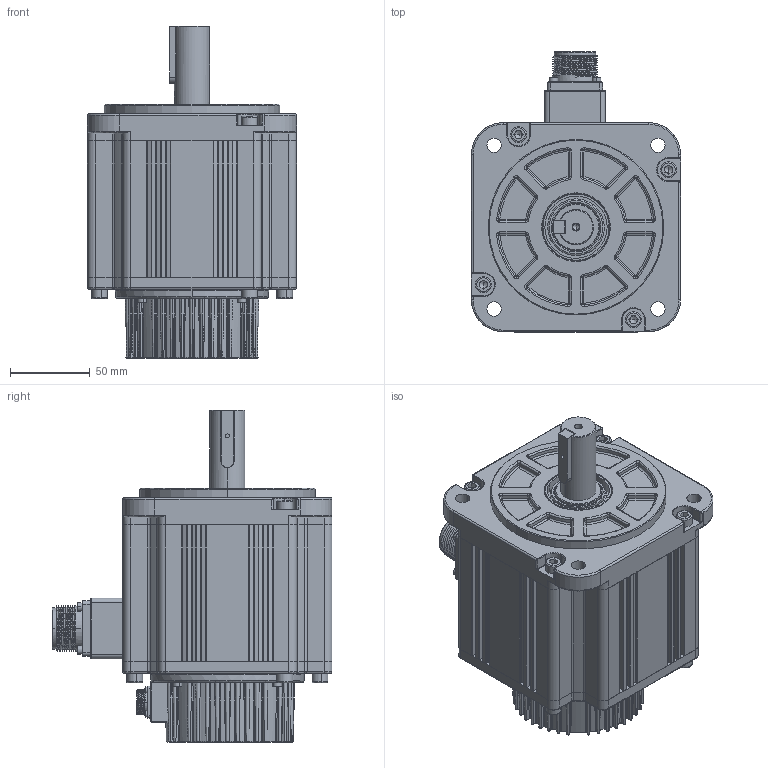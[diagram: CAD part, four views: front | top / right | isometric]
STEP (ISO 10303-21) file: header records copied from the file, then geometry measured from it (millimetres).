
FILE_DESCRIPTION (( 'STEP AP214' ), '1' );
FILE_NAME ('V7E-M13A-1R315-D1.STEP', '2021-08-09T07:04:21', ( '' ), ( '' ), 'SwSTEP 2.0', 'SolidWorks 2014', '' );
FILE_SCHEMA (( 'AUTOMOTIVE_DESIGN' ));
Length unit declared in the file: millimetre
Products named in the file (18): SC瑤諾脣芛 16M-9H; 粣200907; 130陔ヶ傷裔200902; V7-130#定子组件（不带刹车）; 囀鞠褒 M6X20; V7-130#转子组件（不带刹车）; SC瑤諾脣芛 CMS3102A18-10P-Z; 雄薯瑤脣釱200909; 蚐猾 D00B999YF7-TC 30-42-7; 零件1^V7-130#电机组件（不带刹车）200927; 儂褲200901; 綴傷裔200903-4晚源倛; 130陔ヶ傷裔200917; 坋趼攫芛 M2X8; 囀鞠褒 M3X30; 囀鞠褒 M3X10; SC晤鎢ん欶200908_9郋; V7E-M13A-1R315-D1
Assembly tree (33 placements, depth 4):
  V7E-M13A-1R315-D1
    V7-130#定子组件（不带刹车）
      囀鞠褒 M6X20  x4
      130陔ヶ傷裔200917
        130陔ヶ傷裔200902
    V7-130#转子组件（不带刹车）
      粣200907
    SC瑤諾脣芛 16M-9H
    囀鞠褒 M6X20  x4
    SC晤鎢ん欶200908_9郋
    囀鞠褒 M3X10  x4
    坋趼攫芛 M2X8  x4
    蚐猾 D00B999YF7-TC 30-42-7
    零件1^V7-130#电机组件（不带刹车）200927
    綴傷裔200903-4晚源倛
    儂褲200901
    SC瑤諾脣芛 CMS3102A18-10P-Z
    雄薯瑤脣釱200909
    囀鞠褒 M3X30  x4
Bounding box: 131 x 175.4 x 208 mm (x, y, z)
Volume: 748008.8 mm3; surface area: 286070.7 mm2
Topology: 30 solids, 30 shells, 2910 faces, 6962 edges, 4001 vertices
Faces by surface type: cylinder 1032, bspline 933, plane 684, cone 225, torus 32, sphere 4
Entity records: 134948 total; most frequent: CARTESIAN_POINT 57264, ORIENTED_EDGE 11686, DIRECTION 9842, EDGE_CURVE 5843, AXIS2_PLACEMENT_3D 3967, VERTEX_POINT 3440, EDGE_LOOP 2695, ADVANCED_FACE 2513
